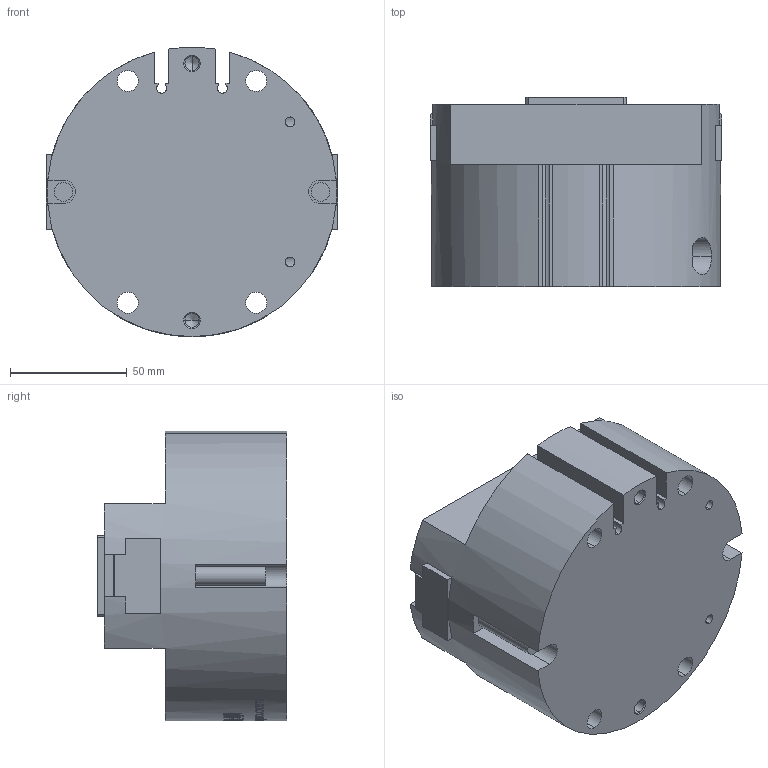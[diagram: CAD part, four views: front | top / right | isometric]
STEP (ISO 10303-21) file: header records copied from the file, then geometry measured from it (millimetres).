
FILE_DESCRIPTION (( 'STEP AP203' ), '1' );
FILE_NAME ('OPM-125-C1-原始檔-組合-W106.04.18.STEP', '2017-04-18T07:35:19', ( 'DanyaoCAD' ), ( '' ), 'SwSTEP 2.0', 'SolidWorks 2016', '' );
FILE_SCHEMA (( 'CONFIG_CONTROL_DESIGN' ));
Products named in the file (3): Griffa; Corpo; OPM-125-C1-原始檔-組合-W106.04.18
Assembly tree (3 placements, depth 2):
  OPM-125-C1-原始檔-組合-W106.04.18
    Griffa  x2
    Corpo
Bounding box: 125 x 81 x 123.91 mm (x, y, z)
Volume: 774802.5 mm3; surface area: 93244.3 mm2
Topology: 3 solids, 3 shells, 954 faces, 2672 edges, 1768 vertices
Faces by surface type: bspline 665, plane 173, cylinder 96, cone 20
Entity records: 98271 total; most frequent: CARTESIAN_POINT 80083, ORIENTED_EDGE 5160, EDGE_CURVE 2580, B_SPLINE_CURVE_WITH_KNOTS 2041, VERTEX_POINT 1716, DIRECTION 1224, EDGE_LOOP 988, FACE_OUTER_BOUND 921
